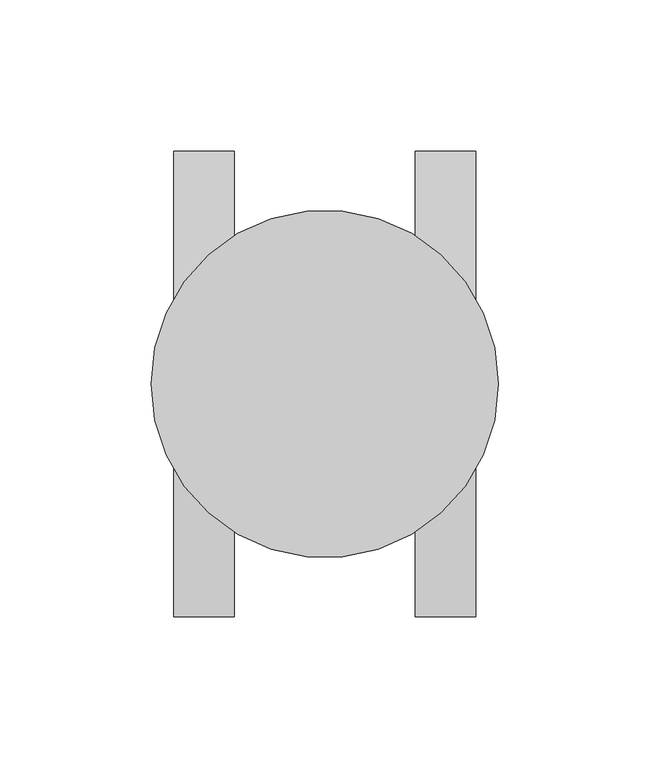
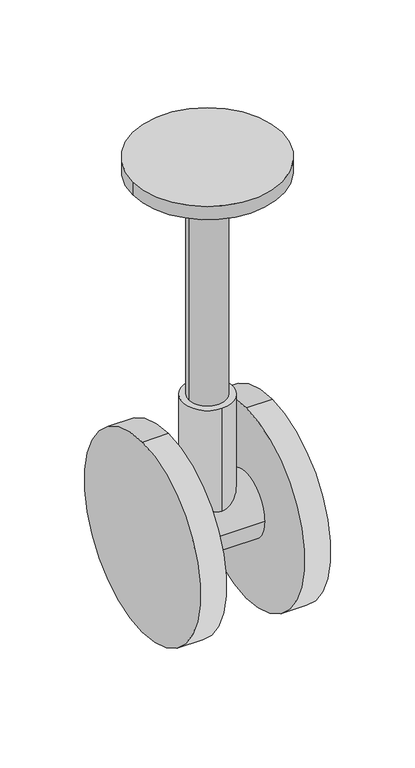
"""IFC4 building model written with IfcOpenShell, lengths in millimetres: valve geometry, C0100_GV_仕切弁 : GV_仕切弁."""

import ifcopenshell
import ifcopenshell.guid

model = None  # the IFC model being written
_history = None  # IfcOwnerHistory: only IFC2X3 demands one
_inside = {}  # id of a spatial element -> (the spatial element, [elements in it])
_under = {}  # id of a project, library or spatial element -> (it, [spatial elements below it])
_declared = {}  # id of a project -> (the project, [libraries it declares])
_typed = {}  # id of a type object -> (the type object, [elements of that type])
_made_of = {}  # id of a material, layer set ... -> (it, [elements and type objects made of it])


def new_model(schema):
    """Start an empty IFC model of exactly this schema.

    Asked for "IFC4X3", IfcOpenShell would pick the latest addendum, in which some entities
    have other attributes; the version numbers below select the first issue.
    IFC2X3 requires an IfcOwnerHistory on every rooted entity: one is made here for all.
    """
    global model, _history
    if schema == "IFC4X3":
        model = ifcopenshell.file(schema_version=(4, 3, 0, 0))
    else:
        model = ifcopenshell.file(schema=schema)
    _inside.clear()
    _under.clear()
    _declared.clear()
    _typed.clear()
    _made_of.clear()
    _history = None
    if model.schema == "IFC2X3":
        org = make("IfcOrganization", Name="unknown")
        user = make(
            "IfcPersonAndOrganization",
            ThePerson=make("IfcPerson", FamilyName="unknown"),
            TheOrganization=org,
        )
        app = make(
            "IfcApplication",
            ApplicationDeveloper=org,
            Version="unknown",
            ApplicationFullName="unknown",
            ApplicationIdentifier="unknown",
        )
        _history = make(
            "IfcOwnerHistory",
            OwningUser=user,
            OwningApplication=app,
            ChangeAction="ADDED",
            CreationDate=0,
        )
    return model


def make(cls, **values):
    """One entity of the class cls with the attributes given. An attribute that is None is left unset."""
    return model.create_entity(
        cls, **{name: value for name, value in values.items() if value is not None}
    )


def rooted(cls, **values):
    """An entity with a GlobalId (a new one), such as an element, a storey or a relation."""
    return make(cls, GlobalId=ifcopenshell.guid.new(), OwnerHistory=_history, **values)


def si_unit(unit_type, name, prefix=None):
    """IfcSIUnit, for example si_unit("LENGTHUNIT", "METRE", prefix="MILLI")."""
    return make("IfcSIUnit", UnitType=unit_type, Prefix=prefix, Name=name)


def assignment(units):
    """IfcUnitAssignment: the units of a project."""
    return None if units is None else make("IfcUnitAssignment", Units=units)


def point(xyz):
    """IfcCartesianPoint."""
    return None if xyz is None else make("IfcCartesianPoint", Coordinates=xyz)


def direction(xyz):
    """IfcDirection."""
    return None if xyz is None else make("IfcDirection", DirectionRatios=xyz)


def frame(location, z_axis=None, x_axis=None):
    """IfcAxis2Placement3D, a coordinate frame: its origin and axes. An axis left out is left unset."""
    return make(
        "IfcAxis2Placement3D",
        Location=point(location),
        Axis=direction(z_axis),
        RefDirection=direction(x_axis),
    )


def frame_2d(location, x_axis=None):
    """IfcAxis2Placement2D, a coordinate frame in the plane: its origin and x axis."""
    return make(
        "IfcAxis2Placement2D", Location=point(location), RefDirection=direction(x_axis)
    )


def origin():
    """The frame at (0, 0, 0) with its axes left unset."""
    return frame((0.0, 0.0, 0.0))


def origin_with_axes():
    """The frame at (0, 0, 0) with the z axis (0, 0, 1) and the x axis (1, 0, 0) written out."""
    return frame((0.0, 0.0, 0.0), z_axis=(0.0, 0.0, 1.0), x_axis=(1.0, 0.0, 0.0))


def origin_2d():
    """The frame at (0, 0) in the plane with its x axis left unset."""
    return frame_2d((0.0, 0.0))


def place(relative_to, where):
    """IfcLocalPlacement: puts the frame where relative to a parent placement (None: the world)."""
    return make(
        "IfcLocalPlacement", PlacementRelTo=relative_to, RelativePlacement=where
    )


def context(
    kind, dimensions, precision=None, world=None, true_north=None, identifier=None
):
    """IfcGeometricRepresentationContext, for example the 3D "Model" context."""
    return make(
        "IfcGeometricRepresentationContext",
        ContextIdentifier=identifier,
        ContextType=kind,
        CoordinateSpaceDimension=dimensions,
        Precision=precision,
        WorldCoordinateSystem=world,
        TrueNorth=true_north,
    )


def project(units=None, contexts=None):
    """IfcProject with its units and contexts."""
    return rooted(
        "IfcProject",
        Name="project",
        RepresentationContexts=contexts,
        UnitsInContext=assignment(units),
    )


def spatial(cls, under=None, at=None, **own):
    """A site, building, storey or space (cls), placed at a placement, below another one or the project."""
    s = rooted(cls, ObjectPlacement=at, **own)
    if under is not None:
        _under.setdefault(under.id(), (under, []))[1].append(s)
    return s


def circle_curve(where, radius):
    """IfcCircle in the frame where."""
    return make("IfcCircle", Position=where, Radius=radius)


def trimmed(basis, trim1, trim2, sense, master):
    """IfcTrimmedCurve: the piece of a basis curve between two trims."""
    return make(
        "IfcTrimmedCurve",
        BasisCurve=basis,
        Trim1=trim1,
        Trim2=trim2,
        SenseAgreement=sense,
        MasterRepresentation=master,
    )


def segment(curve, same_sense, transition):
    """IfcCompositeCurveSegment."""
    return make(
        "IfcCompositeCurveSegment",
        Transition=transition,
        SameSense=same_sense,
        ParentCurve=curve,
    )


def composite_curve(segments, self_intersect=None):
    """IfcCompositeCurve: segments joined end to end."""
    return make("IfcCompositeCurve", Segments=segments, SelfIntersect=self_intersect)


def outline(outer, holes=None, kind="AREA"):
    """IfcArbitraryClosedProfileDef: a profile drawn as a closed curve; with holes, ...WithVoids."""
    if holes is None:
        return make("IfcArbitraryClosedProfileDef", ProfileType=kind, OuterCurve=outer)
    return make(
        "IfcArbitraryProfileDefWithVoids",
        ProfileType=kind,
        OuterCurve=outer,
        InnerCurves=holes,
    )


def extrude(swept, where, along, depth):
    """IfcExtrudedAreaSolid: the profile swept, set in the frame where, extruded along a direction by depth."""
    return make(
        "IfcExtrudedAreaSolid",
        SweptArea=swept,
        Position=where,
        ExtrudedDirection=direction(along),
        Depth=depth,
    )


def shape(context_of_items, identifier, shape_type, items):
    """IfcShapeRepresentation: the items that make up one representation, for example the "Body"."""
    return make(
        "IfcShapeRepresentation",
        ContextOfItems=context_of_items,
        RepresentationIdentifier=identifier,
        RepresentationType=shape_type,
        Items=items,
    )


def source(mapping_origin, context_of_items, identifier, shape_type, items):
    """IfcRepresentationMap: a shape defined once, which mapped items show again and again."""
    return make(
        "IfcRepresentationMap",
        MappingOrigin=mapping_origin,
        MappedRepresentation=shape(context_of_items, identifier, shape_type, items),
    )


def transform(
    local_origin,
    x_axis=None,
    y_axis=None,
    z_axis=None,
    scale=None,
    scale2=None,
    scale3=None,
    uniform=True,
):
    """IfcCartesianTransformationOperator3D, or its non-uniform kind. x_axis, y_axis, z_axis: its Axis1, 2, 3."""
    if uniform:
        return make(
            "IfcCartesianTransformationOperator3D",
            Axis1=direction(x_axis),
            Axis2=direction(y_axis),
            LocalOrigin=point(local_origin),
            Scale=scale,
            Axis3=direction(z_axis),
        )
    return make(
        "IfcCartesianTransformationOperator3DnonUniform",
        Axis1=direction(x_axis),
        Axis2=direction(y_axis),
        LocalOrigin=point(local_origin),
        Scale=scale,
        Axis3=direction(z_axis),
        Scale2=scale2,
        Scale3=scale3,
    )


def mapped(mapping_source, mapping_target):
    """IfcMappedItem: shows the shape of a source again, moved by a transform."""
    return make(
        "IfcMappedItem", MappingSource=mapping_source, MappingTarget=mapping_target
    )


def made_of(thing, what):
    """Note that an element or type object is made of a material, layer set ...; save() writes the relation."""
    if what is not None:
        _made_of.setdefault(what.id(), (what, []))[1].append(thing)
    return thing


def element(
    cls,
    number,
    at=None,
    inside=None,
    cuts=None,
    type_object=None,
    material=None,
    context=None,
    identifier="Body",
    shape_type=None,
    held_by="IfcProductDefinitionShape",
    body=None,
    shapes=None,
    **own,
):
    """One element of the class cls, such as IfcWall. Its Tag is "e" and its number.

    at: its placement. inside: the storey or other place that contains it. cuts: it is an
    opening in that element (IfcRelVoidsElement). A single representation is given by context,
    identifier, shape_type and body (its items); several are given by shapes. held_by: the class
    of the entity that holds the representations. save() writes the other relations.
    """
    e = rooted(cls, Tag="e%d" % number, ObjectPlacement=at, **own)
    if body is not None:
        shapes = [shape(context, identifier, shape_type, body)]
    if shapes is not None:
        e.Representation = make(held_by, Representations=shapes)
    if inside is not None:
        _inside.setdefault(inside.id(), (inside, []))[1].append(e)
    if cuts is not None:
        rooted(
            "IfcRelVoidsElement", RelatingBuildingElement=cuts, RelatedOpeningElement=e
        )
    if type_object is not None:
        _typed.setdefault(type_object.id(), (type_object, []))[1].append(e)
    return made_of(e, material)


def aggregate(whole, parts):
    """IfcRelAggregates: a whole, such as a stair, and the parts it consists of."""
    return rooted("IfcRelAggregates", RelatingObject=whole, RelatedObjects=parts)


def save(model, path):
    """Write the relations noted so far, then the file.

    IfcRelAggregates (storeys below a building ...), IfcRelContainedInSpatialStructure (elements
    in a storey), IfcRelDefinesByType, IfcRelAssociatesMaterial and IfcRelDeclares: one each for
    every whole, place, type object, material and project.
    """
    for whole, parts in _under.values():
        aggregate(whole, parts)
    for where, things in _inside.values():
        rooted(
            "IfcRelContainedInSpatialStructure",
            RelatedElements=things,
            RelatingStructure=where,
        )
    for kind, things in _typed.values():
        rooted("IfcRelDefinesByType", RelatedObjects=things, RelatingType=kind)
    for what, things in _made_of.values():
        rooted("IfcRelAssociatesMaterial", RelatedObjects=things, RelatingMaterial=what)
    for by, libraries in _declared.values():
        rooted("IfcRelDeclares", RelatingContext=by, RelatedDefinitions=libraries)
    model.write(path)


def valve_7e61feda(model_context):
    return source(origin(), model_context, "Body", "SweptSolid", [
        extrude(outline(composite_curve([segment(trimmed(circle_curve(origin_2d(), 77.5), [point((0.0, -77.5))], [point((0.0, 77.5))], False, "CARTESIAN"), True, "CONTINUOUS"), segment(trimmed(circle_curve(origin_2d(), 77.5), [point((0.0, 77.5))], [point((0.0, -77.5))], False, "CARTESIAN"), True, "CONTINUOUS")], self_intersect=False)), frame((-50.0, 0.0, 0.0), z_axis=(1.0, 0.0, 0.0), x_axis=(0.0, 1.0, 0.0)), (0.0, 0.0, 1.0), 20.0),
        extrude(outline(composite_curve([segment(trimmed(circle_curve(origin_2d(), 77.5), [point((0.0, -77.5))], [point((0.0, 77.5))], False, "CARTESIAN"), True, "CONTINUOUS"), segment(trimmed(circle_curve(origin_2d(), 77.5), [point((0.0, 77.5))], [point((0.0, -77.5))], False, "CARTESIAN"), True, "CONTINUOUS")], self_intersect=False)), frame((30.0, 0.0, 0.0), z_axis=(1.0, 0.0, 0.0), x_axis=(0.0, 1.0, 0.0)), (0.0, 0.0, 1.0), 20.0),
        extrude(outline(composite_curve([segment(trimmed(circle_curve(origin_2d(), 19.1666667), [point((0.0, 19.1666667))], [point((0.0, -19.1666667))], False, "CARTESIAN"), True, "CONTINUOUS"), segment(trimmed(circle_curve(origin_2d(), 19.1666667), [point((0.0, -19.1666667))], [point((0.0, 19.1666667))], False, "CARTESIAN"), True, "CONTINUOUS")], self_intersect=False)), origin_with_axes(), (0.0, 0.0, 1.0), 99.0),
        extrude(outline(composite_curve([segment(trimmed(circle_curve(origin_2d(), 14.375), [point((14.375, 0.0))], [point((-14.375, 0.0))], False, "CARTESIAN"), True, "CONTINUOUS"), segment(trimmed(circle_curve(origin_2d(), 14.375), [point((-14.375, 0.0))], [point((14.375, 0.0))], False, "CARTESIAN"), True, "CONTINUOUS")], self_intersect=False)), frame((0.0, 0.0, 99.0), z_axis=(0.0, 0.0, 1.0), x_axis=(1.0, 0.0, 0.0)), (0.0, 0.0, 1.0), 182.3),
        extrude(outline(composite_curve([segment(trimmed(circle_curve(origin_2d(), 57.5), [point((57.5, 0.0))], [point((-57.5, 0.0))], False, "CARTESIAN"), True, "CONTINUOUS"), segment(trimmed(circle_curve(origin_2d(), 57.5), [point((-57.5, 0.0))], [point((57.5, 0.0))], False, "CARTESIAN"), True, "CONTINUOUS")], self_intersect=False)), frame((0.0, 0.0, 281.3), z_axis=(0.0, 0.0, 1.0), x_axis=(1.0, 0.0, 0.0)), (0.0, 0.0, 1.0), 10.7),
        extrude(outline(composite_curve([segment(trimmed(circle_curve(origin_2d(), 25.0), [point((-25.0, 0.0))], [point((25.0, 0.0))], False, "CARTESIAN"), True, "CONTINUOUS"), segment(trimmed(circle_curve(origin_2d(), 25.0), [point((25.0, 0.0))], [point((-25.0, 0.0))], False, "CARTESIAN"), True, "CONTINUOUS")], self_intersect=False)), frame((-30.0, 0.0, 0.0), z_axis=(1.0, 0.0, 0.0), x_axis=(0.0, 1.0, 0.0)), (0.0, 0.0, 1.0), 60.0),
    ])


if __name__ == "__main__":
    model = new_model("IFC4")
    model_context = context("Model", 3, world=origin())
    ifc_project = project(units=[si_unit("LENGTHUNIT", "METRE", prefix="MILLI")], contexts=[model_context])
    site = spatial("IfcSite", under=ifc_project)
    building = spatial("IfcBuilding", under=site)
    placement = place(None, origin())
    valve_shape = valve_7e61feda(model_context)
    element("IfcValve", 1, ObjectType="C0100_GV_仕切弁 : GV_仕切弁", at=placement, inside=building, context=model_context, shape_type="MappedRepresentation", body=[
        mapped(valve_shape, transform((0.0, 0.0, 0.0), x_axis=(1.0, 0.0, 0.0), y_axis=(0.0, 1.0, 0.0), z_axis=(0.0, 0.0, 1.0))),
    ])
    save(model, "model.ifc")
